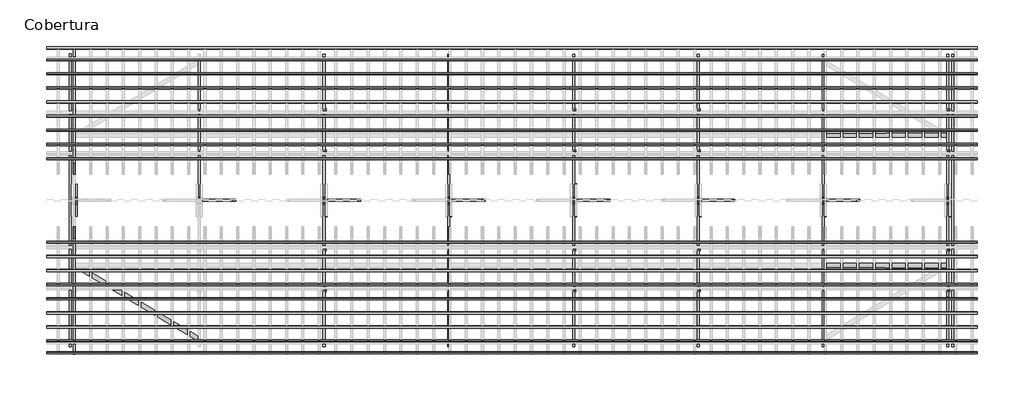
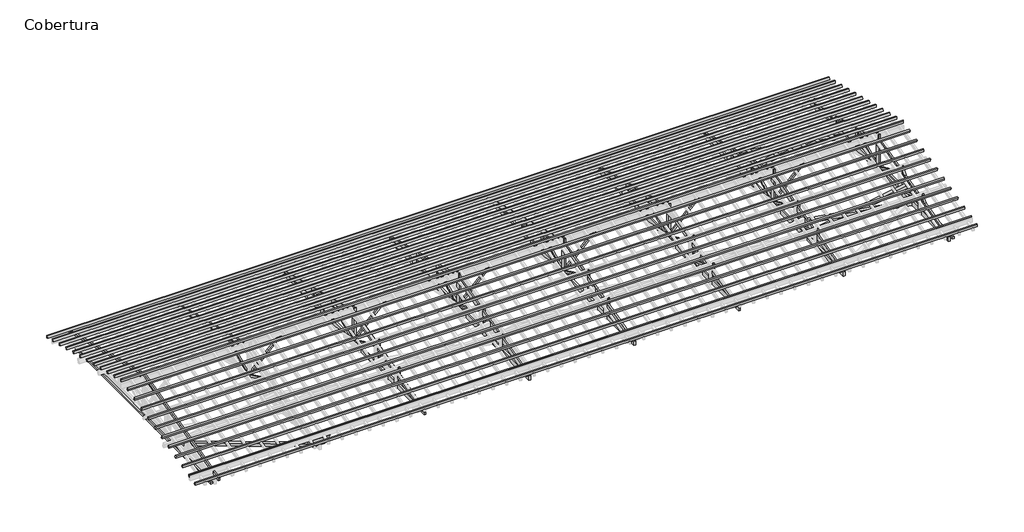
# One storey, part 3 of 3: 78 proxies.
"""IFC4 building model written with IfcOpenShell, lengths in millimetres."""

from ifc_helpers import new_model, si_unit, origin, place, context, project, spatial, transform, mapped, element, save
from components import generic_models_425c2f4d, generic_models_e5b33059, generic_models_df8050df, generic_models_e438c8ae, generic_models_a1f4184e, generic_models_7920858f, generic_models_e209cc3a, generic_models_d8525e1e, generic_models_5950458f, generic_models_fcc09fc7, generic_models_b1f8fa7e, generic_models_85b707a5, generic_models_5e919536, generic_models_2b767ad5, generic_models_c1434fa9, generic_models_f2ca6f04, generic_models_dc6e7441, generic_models_01970b12, generic_models_8a4245bf, generic_models_78a46ebe, generic_models_c166742f, generic_models_f7be567b, generic_models_5ebcc86e, generic_models_40f35aaa, generic_models_66b1627d, generic_models_3ca8df25, generic_models_bc5f4990, generic_models_233710ef, generic_models_63f979b1, generic_models_937c8a6a, generic_models_42f0cbc4, generic_models_2129c80e, generic_models_dbdfc033, generic_models_50ffef5a, generic_models_1e5d9115, generic_models_9d3958d8, generic_models_1bcee4c5, generic_models_7da0c3bd, generic_models_b4ce7ea5, generic_models_02f32a16, generic_models_f44428a0, generic_models_84b53ca5, generic_models_a1e8e8a0, generic_models_064d881c, generic_models_e9d169d2, generic_models_e7d75169, generic_models_1f937349, generic_models_a595523c, generic_models_a589a654, generic_models_8c190c56, generic_models_1d64b13f, generic_models_011da5c6, generic_models_a9474a37, generic_models_062fe46e, generic_models_f43e62c5, generic_models_7443e431, generic_models_3e61c111, generic_models_847009c9, generic_models_421d1b63, generic_models_c462c927, generic_models_ec78b08e, generic_models_f04222a2, generic_models_cd409aa5, generic_models_f3fe7bdc, generic_models_e51e2f78, generic_models_224d4fe7, generic_models_0bdb9a71, generic_models_82d674ec, generic_models_2fe4f615, generic_models_95c86ca1, generic_models_69da9097, generic_models_0b257a73, generic_models_58ecb920, generic_models_97cfe070, generic_models_be4cb03b, generic_models_98053da7, generic_models_e04e582b, generic_models_2b0f7730

model = new_model("IFC4")

# Units and contexts
model_context = context("Model", 3, world=origin())
ifc_project = project(units=[si_unit("LENGTHUNIT", "METRE", prefix="MILLI")], contexts=[model_context])

# Site, building, storey
site = spatial("IfcSite", under=ifc_project)
building = spatial("IfcBuilding", under=site)
storey = spatial("IfcBuildingStorey", under=building, Name="Cobertura", Elevation=3000.0)

# Proxies
placement = place(None, origin())
generic_models_shape = generic_models_425c2f4d(model_context)
element("IfcBuildingElementProxy", 1, Name="Modelos genéricos 35 : Modelos genéricos 12", ObjectType="Modelos genéricos 35 : Modelos genéricos 12", at=placement, inside=storey, context=model_context, shape_type="MappedRepresentation", body=[
    mapped(generic_models_shape, transform((0.0, 0.0, 0.0), x_axis=(1.0, 0.0, 0.0), y_axis=(0.0, 1.0, 0.0), z_axis=(0.0, 0.0, 1.0))),
])
generic_models_2_shape = generic_models_e5b33059(model_context)
element("IfcBuildingElementProxy", 2, Name="Modelos genéricos 39 : Modelos genéricos 16", ObjectType="Modelos genéricos 39 : Modelos genéricos 16", at=placement, inside=storey, context=model_context, shape_type="MappedRepresentation", body=[
    mapped(generic_models_2_shape, transform((0.0, 0.0, 0.0), x_axis=(1.0, 0.0, 0.0), y_axis=(0.0, 1.0, 0.0), z_axis=(0.0, 0.0, 1.0))),
])
generic_models_3_shape = generic_models_df8050df(model_context)
element("IfcBuildingElementProxy", 3, Name="Modelos genéricos 40 : Modelos genéricos 16", ObjectType="Modelos genéricos 40 : Modelos genéricos 16", at=placement, inside=storey, context=model_context, shape_type="MappedRepresentation", body=[
    mapped(generic_models_3_shape, transform((0.0, 0.0, 0.0), x_axis=(1.0, 0.0, 0.0), y_axis=(0.0, 1.0, 0.0), z_axis=(0.0, 0.0, 1.0))),
])
generic_models_4_shape = generic_models_e438c8ae(model_context)
element("IfcBuildingElementProxy", 4, Name="Modelos genéricos 43 : Modelos genéricos 23", ObjectType="Modelos genéricos 43 : Modelos genéricos 23", at=placement, inside=storey, context=model_context, shape_type="MappedRepresentation", body=[
    mapped(generic_models_4_shape, transform((0.0, 0.0, 0.0), x_axis=(1.0, 0.0, 0.0), y_axis=(0.0, 1.0, 0.0), z_axis=(0.0, 0.0, 1.0))),
])
generic_models_5_shape = generic_models_a1f4184e(model_context)
element("IfcBuildingElementProxy", 5, Name="Modelos genéricos 45 : Modelos genéricos 1", ObjectType="Modelos genéricos 45 : Modelos genéricos 1", at=placement, inside=storey, context=model_context, shape_type="MappedRepresentation", body=[
    mapped(generic_models_5_shape, transform((0.0, 0.0, 0.0), x_axis=(1.0, 0.0, 0.0), y_axis=(0.0, 1.0, 0.0), z_axis=(0.0, 0.0, 1.0))),
])
generic_models_6_shape = generic_models_7920858f(model_context)
element("IfcBuildingElementProxy", 6, Name="Modelos genéricos 49 : Modelos genéricos 5", ObjectType="Modelos genéricos 49 : Modelos genéricos 5", at=placement, inside=storey, context=model_context, shape_type="MappedRepresentation", body=[
    mapped(generic_models_6_shape, transform((0.0, 0.0, 0.0), x_axis=(1.0, 0.0, 0.0), y_axis=(0.0, 1.0, 0.0), z_axis=(0.0, 0.0, 1.0))),
])
generic_models_7_shape = generic_models_e209cc3a(model_context)
element("IfcBuildingElementProxy", 7, Name="Modelos genéricos 50 : Modelos genéricos 5", ObjectType="Modelos genéricos 50 : Modelos genéricos 5", at=placement, inside=storey, context=model_context, shape_type="MappedRepresentation", body=[
    mapped(generic_models_7_shape, transform((0.0, 0.0, 0.0), x_axis=(1.0, 0.0, 0.0), y_axis=(0.0, 1.0, 0.0), z_axis=(0.0, 0.0, 1.0))),
])
generic_models_8_shape = generic_models_d8525e1e(model_context)
element("IfcBuildingElementProxy", 8, Name="Modelos genéricos 51 : Modelos genéricos 9", ObjectType="Modelos genéricos 51 : Modelos genéricos 9", at=placement, inside=storey, context=model_context, shape_type="MappedRepresentation", body=[
    mapped(generic_models_8_shape, transform((0.0, 5.0, 0.0), x_axis=(1.0, 0.0, 0.0), y_axis=(0.0, 1.0, 0.0), z_axis=(0.0, 0.0, 1.0))),
])
generic_models_9_shape = generic_models_5950458f(model_context)
element("IfcBuildingElementProxy", 9, Name="Modelos genéricos 52 : Modelos genéricos 11", ObjectType="Modelos genéricos 52 : Modelos genéricos 11", at=placement, inside=storey, context=model_context, shape_type="MappedRepresentation", body=[
    mapped(generic_models_9_shape, transform((0.0, 0.0, 0.0), x_axis=(1.0, 0.0, 0.0), y_axis=(0.0, 1.0, 0.0), z_axis=(0.0, 0.0, 1.0))),
])
generic_models_10_shape = generic_models_fcc09fc7(model_context)
element("IfcBuildingElementProxy", 10, Name="Modelos genéricos 53 : Modelos genéricos 12", ObjectType="Modelos genéricos 53 : Modelos genéricos 12", at=placement, inside=storey, context=model_context, shape_type="MappedRepresentation", body=[
    mapped(generic_models_10_shape, transform((0.0, 0.0, 0.0), x_axis=(1.0, 0.0, 0.0), y_axis=(0.0, 1.0, 0.0), z_axis=(0.0, 0.0, 1.0))),
])
generic_models_11_shape = generic_models_b1f8fa7e(model_context)
element("IfcBuildingElementProxy", 11, Name="Modelos genéricos 54 : Modelos genéricos 12", ObjectType="Modelos genéricos 54 : Modelos genéricos 12", at=placement, inside=storey, context=model_context, shape_type="MappedRepresentation", body=[
    mapped(generic_models_11_shape, transform((0.0, 0.0, 0.0), x_axis=(1.0, 0.0, 0.0), y_axis=(0.0, 1.0, 0.0), z_axis=(0.0, 0.0, 1.0))),
])
generic_models_12_shape = generic_models_85b707a5(model_context)
element("IfcBuildingElementProxy", 12, Name="Modelos genéricos 58 : Modelos genéricos 16", ObjectType="Modelos genéricos 58 : Modelos genéricos 16", at=placement, inside=storey, context=model_context, shape_type="MappedRepresentation", body=[
    mapped(generic_models_12_shape, transform((0.0, 0.0, 0.0), x_axis=(1.0, 0.0, 0.0), y_axis=(0.0, 1.0, 0.0), z_axis=(0.0, 0.0, 1.0))),
])
generic_models_13_shape = generic_models_5e919536(model_context)
element("IfcBuildingElementProxy", 13, Name="Modelos genéricos 59 : Modelos genéricos 16", ObjectType="Modelos genéricos 59 : Modelos genéricos 16", at=placement, inside=storey, context=model_context, shape_type="MappedRepresentation", body=[
    mapped(generic_models_13_shape, transform((0.0, 0.0, 0.0), x_axis=(1.0, 0.0, 0.0), y_axis=(0.0, 1.0, 0.0), z_axis=(0.0, 0.0, 1.0))),
])
generic_models_14_shape = generic_models_2b767ad5(model_context)
element("IfcBuildingElementProxy", 14, Name="Modelos genéricos 62 : Modelos genéricos 23", ObjectType="Modelos genéricos 62 : Modelos genéricos 23", at=placement, inside=storey, context=model_context, shape_type="MappedRepresentation", body=[
    mapped(generic_models_14_shape, transform((0.0, 0.0, 0.0), x_axis=(1.0, 0.0, 0.0), y_axis=(0.0, 1.0, 0.0), z_axis=(0.0, 0.0, 1.0))),
])
generic_models_15_shape = generic_models_c1434fa9(model_context)
element("IfcBuildingElementProxy", 15, Name="Modelos genéricos 64 : Modelos genéricos 1", ObjectType="Modelos genéricos 64 : Modelos genéricos 1", at=placement, inside=storey, context=model_context, shape_type="MappedRepresentation", body=[
    mapped(generic_models_15_shape, transform((0.0, 0.0, 0.0), x_axis=(1.0, 0.0, 0.0), y_axis=(0.0, 1.0, 0.0), z_axis=(0.0, 0.0, 1.0))),
])
generic_models_16_shape = generic_models_f2ca6f04(model_context)
element("IfcBuildingElementProxy", 16, Name="Modelos genéricos 68 : Modelos genéricos 5", ObjectType="Modelos genéricos 68 : Modelos genéricos 5", at=placement, inside=storey, context=model_context, shape_type="MappedRepresentation", body=[
    mapped(generic_models_16_shape, transform((0.0, 0.0, 0.0), x_axis=(1.0, 0.0, 0.0), y_axis=(0.0, 1.0, 0.0), z_axis=(0.0, 0.0, 1.0))),
])
generic_models_17_shape = generic_models_dc6e7441(model_context)
element("IfcBuildingElementProxy", 17, Name="Modelos genéricos 69 : Modelos genéricos 5", ObjectType="Modelos genéricos 69 : Modelos genéricos 5", at=placement, inside=storey, context=model_context, shape_type="MappedRepresentation", body=[
    mapped(generic_models_17_shape, transform((0.0, 0.0, 0.0), x_axis=(1.0, 0.0, 0.0), y_axis=(0.0, 1.0, 0.0), z_axis=(0.0, 0.0, 1.0))),
])
generic_models_18_shape = generic_models_01970b12(model_context)
element("IfcBuildingElementProxy", 18, Name="Modelos genéricos 70 : Modelos genéricos 9", ObjectType="Modelos genéricos 70 : Modelos genéricos 9", at=placement, inside=storey, context=model_context, shape_type="MappedRepresentation", body=[
    mapped(generic_models_18_shape, transform((0.0, 5.0, 0.0), x_axis=(1.0, 0.0, 0.0), y_axis=(0.0, 1.0, 0.0), z_axis=(0.0, 0.0, 1.0))),
])
generic_models_19_shape = generic_models_8a4245bf(model_context)
element("IfcBuildingElementProxy", 19, Name="Modelos genéricos 71 : Modelos genéricos 11", ObjectType="Modelos genéricos 71 : Modelos genéricos 11", at=placement, inside=storey, context=model_context, shape_type="MappedRepresentation", body=[
    mapped(generic_models_19_shape, transform((0.0, 0.0, 0.0), x_axis=(1.0, 0.0, 0.0), y_axis=(0.0, 1.0, 0.0), z_axis=(0.0, 0.0, 1.0))),
])
generic_models_20_shape = generic_models_78a46ebe(model_context)
element("IfcBuildingElementProxy", 20, Name="Modelos genéricos 72 : Modelos genéricos 12", ObjectType="Modelos genéricos 72 : Modelos genéricos 12", at=placement, inside=storey, context=model_context, shape_type="MappedRepresentation", body=[
    mapped(generic_models_20_shape, transform((0.0, 0.0, 0.0), x_axis=(1.0, 0.0, 0.0), y_axis=(0.0, 1.0, 0.0), z_axis=(0.0, 0.0, 1.0))),
])
generic_models_21_shape = generic_models_c166742f(model_context)
element("IfcBuildingElementProxy", 21, Name="Modelos genéricos 73 : Modelos genéricos 12", ObjectType="Modelos genéricos 73 : Modelos genéricos 12", at=placement, inside=storey, context=model_context, shape_type="MappedRepresentation", body=[
    mapped(generic_models_21_shape, transform((0.0, 0.0, 0.0), x_axis=(1.0, 0.0, 0.0), y_axis=(0.0, 1.0, 0.0), z_axis=(0.0, 0.0, 1.0))),
])
generic_models_22_shape = generic_models_f7be567b(model_context)
element("IfcBuildingElementProxy", 22, Name="Modelos genéricos 77 : Modelos genéricos 16", ObjectType="Modelos genéricos 77 : Modelos genéricos 16", at=placement, inside=storey, context=model_context, shape_type="MappedRepresentation", body=[
    mapped(generic_models_22_shape, transform((0.0, 0.0, 0.0), x_axis=(1.0, 0.0, 0.0), y_axis=(0.0, 1.0, 0.0), z_axis=(0.0, 0.0, 1.0))),
])
generic_models_23_shape = generic_models_5ebcc86e(model_context)
element("IfcBuildingElementProxy", 23, Name="Modelos genéricos 78 : Modelos genéricos 16", ObjectType="Modelos genéricos 78 : Modelos genéricos 16", at=placement, inside=storey, context=model_context, shape_type="MappedRepresentation", body=[
    mapped(generic_models_23_shape, transform((0.0, 0.0, 0.0), x_axis=(1.0, 0.0, 0.0), y_axis=(0.0, 1.0, 0.0), z_axis=(0.0, 0.0, 1.0))),
])
generic_models_24_shape = generic_models_40f35aaa(model_context)
element("IfcBuildingElementProxy", 24, Name="Modelos genéricos 81 : Modelos genéricos 23", ObjectType="Modelos genéricos 81 : Modelos genéricos 23", at=placement, inside=storey, context=model_context, shape_type="MappedRepresentation", body=[
    mapped(generic_models_24_shape, transform((0.0, 0.0, 0.0), x_axis=(1.0, 0.0, 0.0), y_axis=(0.0, 1.0, 0.0), z_axis=(0.0, 0.0, 1.0))),
])
generic_models_25_shape = generic_models_66b1627d(model_context)
element("IfcBuildingElementProxy", 25, Name="Modelos genéricos 83 : Modelos genéricos 1", ObjectType="Modelos genéricos 83 : Modelos genéricos 1", at=placement, inside=storey, context=model_context, shape_type="MappedRepresentation", body=[
    mapped(generic_models_25_shape, transform((0.0, 0.0, 0.0), x_axis=(1.0, 0.0, 0.0), y_axis=(0.0, 1.0, 0.0), z_axis=(0.0, 0.0, 1.0))),
])
generic_models_26_shape = generic_models_3ca8df25(model_context)
element("IfcBuildingElementProxy", 26, Name="Modelos genéricos 87 : Modelos genéricos 5", ObjectType="Modelos genéricos 87 : Modelos genéricos 5", at=placement, inside=storey, context=model_context, shape_type="MappedRepresentation", body=[
    mapped(generic_models_26_shape, transform((0.0, 0.0, 0.0), x_axis=(1.0, 0.0, 0.0), y_axis=(0.0, 1.0, 0.0), z_axis=(0.0, 0.0, 1.0))),
])
generic_models_27_shape = generic_models_bc5f4990(model_context)
element("IfcBuildingElementProxy", 27, Name="Modelos genéricos 88 : Modelos genéricos 5", ObjectType="Modelos genéricos 88 : Modelos genéricos 5", at=placement, inside=storey, context=model_context, shape_type="MappedRepresentation", body=[
    mapped(generic_models_27_shape, transform((0.0, 0.0, 0.0), x_axis=(1.0, 0.0, 0.0), y_axis=(0.0, 1.0, 0.0), z_axis=(0.0, 0.0, 1.0))),
])
generic_models_28_shape = generic_models_233710ef(model_context)
element("IfcBuildingElementProxy", 28, Name="Modelos genéricos 89 : Modelos genéricos 9", ObjectType="Modelos genéricos 89 : Modelos genéricos 9", at=placement, inside=storey, context=model_context, shape_type="MappedRepresentation", body=[
    mapped(generic_models_28_shape, transform((0.0, 5.0, 0.0), x_axis=(1.0, 0.0, 0.0), y_axis=(0.0, 1.0, 0.0), z_axis=(0.0, 0.0, 1.0))),
])
generic_models_29_shape = generic_models_63f979b1(model_context)
element("IfcBuildingElementProxy", 29, Name="Modelos genéricos 90 : Modelos genéricos 11", ObjectType="Modelos genéricos 90 : Modelos genéricos 11", at=placement, inside=storey, context=model_context, shape_type="MappedRepresentation", body=[
    mapped(generic_models_29_shape, transform((0.0, 0.0, 0.0), x_axis=(1.0, 0.0, 0.0), y_axis=(0.0, 1.0, 0.0), z_axis=(0.0, 0.0, 1.0))),
])
generic_models_30_shape = generic_models_937c8a6a(model_context)
element("IfcBuildingElementProxy", 30, Name="Modelos genéricos 91 : Modelos genéricos 12", ObjectType="Modelos genéricos 91 : Modelos genéricos 12", at=placement, inside=storey, context=model_context, shape_type="MappedRepresentation", body=[
    mapped(generic_models_30_shape, transform((0.0, 0.0, 0.0), x_axis=(1.0, 0.0, 0.0), y_axis=(0.0, 1.0, 0.0), z_axis=(0.0, 0.0, 1.0))),
])
generic_models_31_shape = generic_models_42f0cbc4(model_context)
element("IfcBuildingElementProxy", 31, Name="Modelos genéricos 92 : Modelos genéricos 12", ObjectType="Modelos genéricos 92 : Modelos genéricos 12", at=placement, inside=storey, context=model_context, shape_type="MappedRepresentation", body=[
    mapped(generic_models_31_shape, transform((0.0, 0.0, 0.0), x_axis=(1.0, 0.0, 0.0), y_axis=(0.0, 1.0, 0.0), z_axis=(0.0, 0.0, 1.0))),
])
generic_models_32_shape = generic_models_2129c80e(model_context)
element("IfcBuildingElementProxy", 32, Name="Modelos genéricos 96 : Modelos genéricos 16", ObjectType="Modelos genéricos 96 : Modelos genéricos 16", at=placement, inside=storey, context=model_context, shape_type="MappedRepresentation", body=[
    mapped(generic_models_32_shape, transform((0.0, 0.0, 0.0), x_axis=(1.0, 0.0, 0.0), y_axis=(0.0, 1.0, 0.0), z_axis=(0.0, 0.0, 1.0))),
])
generic_models_33_shape = generic_models_dbdfc033(model_context)
element("IfcBuildingElementProxy", 33, Name="Modelos genéricos 97 : Modelos genéricos 16", ObjectType="Modelos genéricos 97 : Modelos genéricos 16", at=placement, inside=storey, context=model_context, shape_type="MappedRepresentation", body=[
    mapped(generic_models_33_shape, transform((0.0, 0.0, 0.0), x_axis=(1.0, 0.0, 0.0), y_axis=(0.0, 1.0, 0.0), z_axis=(0.0, 0.0, 1.0))),
])
generic_models_34_shape = generic_models_50ffef5a(model_context)
element("IfcBuildingElementProxy", 34, Name="Modelos genéricos 100 : Modelos genéricos 23", ObjectType="Modelos genéricos 100 : Modelos genéricos 23", at=placement, inside=storey, context=model_context, shape_type="MappedRepresentation", body=[
    mapped(generic_models_34_shape, transform((0.0, 0.0, 0.0), x_axis=(1.0, 0.0, 0.0), y_axis=(0.0, 1.0, 0.0), z_axis=(0.0, 0.0, 1.0))),
])
generic_models_35_shape = generic_models_1e5d9115(model_context)
element("IfcBuildingElementProxy", 35, Name="Modelos genéricos 102 : Modelos genéricos 1", ObjectType="Modelos genéricos 102 : Modelos genéricos 1", at=placement, inside=storey, context=model_context, shape_type="MappedRepresentation", body=[
    mapped(generic_models_35_shape, transform((0.0, 0.0, 0.0), x_axis=(1.0, 0.0, 0.0), y_axis=(0.0, 1.0, 0.0), z_axis=(0.0, 0.0, 1.0))),
])
generic_models_36_shape = generic_models_9d3958d8(model_context)
element("IfcBuildingElementProxy", 36, Name="Modelos genéricos 106 : Modelos genéricos 5", ObjectType="Modelos genéricos 106 : Modelos genéricos 5", at=placement, inside=storey, context=model_context, shape_type="MappedRepresentation", body=[
    mapped(generic_models_36_shape, transform((0.0, 0.0, 0.0), x_axis=(1.0, 0.0, 0.0), y_axis=(0.0, 1.0, 0.0), z_axis=(0.0, 0.0, 1.0))),
])
generic_models_37_shape = generic_models_1bcee4c5(model_context)
element("IfcBuildingElementProxy", 37, Name="Modelos genéricos 107 : Modelos genéricos 5", ObjectType="Modelos genéricos 107 : Modelos genéricos 5", at=placement, inside=storey, context=model_context, shape_type="MappedRepresentation", body=[
    mapped(generic_models_37_shape, transform((0.0, 0.0, 0.0), x_axis=(1.0, 0.0, 0.0), y_axis=(0.0, 1.0, 0.0), z_axis=(0.0, 0.0, 1.0))),
])
generic_models_38_shape = generic_models_7da0c3bd(model_context)
element("IfcBuildingElementProxy", 38, Name="Modelos genéricos 108 : Modelos genéricos 9", ObjectType="Modelos genéricos 108 : Modelos genéricos 9", at=placement, inside=storey, context=model_context, shape_type="MappedRepresentation", body=[
    mapped(generic_models_38_shape, transform((0.0, 5.0, 0.0), x_axis=(1.0, 0.0, 0.0), y_axis=(0.0, 1.0, 0.0), z_axis=(0.0, 0.0, 1.0))),
])
generic_models_39_shape = generic_models_b4ce7ea5(model_context)
element("IfcBuildingElementProxy", 39, Name="Modelos genéricos 109 : Modelos genéricos 11", ObjectType="Modelos genéricos 109 : Modelos genéricos 11", at=placement, inside=storey, context=model_context, shape_type="MappedRepresentation", body=[
    mapped(generic_models_39_shape, transform((0.0, 0.0, 0.0), x_axis=(1.0, 0.0, 0.0), y_axis=(0.0, 1.0, 0.0), z_axis=(0.0, 0.0, 1.0))),
])
generic_models_40_shape = generic_models_02f32a16(model_context)
element("IfcBuildingElementProxy", 40, Name="Modelos genéricos 110 : Modelos genéricos 12", ObjectType="Modelos genéricos 110 : Modelos genéricos 12", at=placement, inside=storey, context=model_context, shape_type="MappedRepresentation", body=[
    mapped(generic_models_40_shape, transform((0.0, 0.0, 0.0), x_axis=(1.0, 0.0, 0.0), y_axis=(0.0, 1.0, 0.0), z_axis=(0.0, 0.0, 1.0))),
])
generic_models_41_shape = generic_models_f44428a0(model_context)
element("IfcBuildingElementProxy", 41, Name="Modelos genéricos 111 : Modelos genéricos 12", ObjectType="Modelos genéricos 111 : Modelos genéricos 12", at=placement, inside=storey, context=model_context, shape_type="MappedRepresentation", body=[
    mapped(generic_models_41_shape, transform((0.0, 0.0, 0.0), x_axis=(1.0, 0.0, 0.0), y_axis=(0.0, 1.0, 0.0), z_axis=(0.0, 0.0, 1.0))),
])
generic_models_42_shape = generic_models_84b53ca5(model_context)
element("IfcBuildingElementProxy", 42, Name="Modelos genéricos 113 : Modelos genéricos 14", ObjectType="Modelos genéricos 113 : Modelos genéricos 14", at=placement, inside=storey, context=model_context, shape_type="MappedRepresentation", body=[
    mapped(generic_models_42_shape, transform((0.0, 0.0, 0.0), x_axis=(1.0, 0.0, 0.0), y_axis=(0.0, 1.0, 0.0), z_axis=(0.0, 0.0, 1.0))),
])
generic_models_43_shape = generic_models_a1e8e8a0(model_context)
element("IfcBuildingElementProxy", 43, Name="Modelos genéricos 115 : Modelos genéricos 16", ObjectType="Modelos genéricos 115 : Modelos genéricos 16", at=placement, inside=storey, context=model_context, shape_type="MappedRepresentation", body=[
    mapped(generic_models_43_shape, transform((0.0, 0.0, 0.0), x_axis=(1.0, 0.0, 0.0), y_axis=(0.0, 1.0, 0.0), z_axis=(0.0, 0.0, 1.0))),
])
generic_models_44_shape = generic_models_064d881c(model_context)
element("IfcBuildingElementProxy", 44, Name="Modelos genéricos 116 : Modelos genéricos 16", ObjectType="Modelos genéricos 116 : Modelos genéricos 16", at=placement, inside=storey, context=model_context, shape_type="MappedRepresentation", body=[
    mapped(generic_models_44_shape, transform((0.0, 0.0, 0.0), x_axis=(1.0, 0.0, 0.0), y_axis=(0.0, 1.0, 0.0), z_axis=(0.0, 0.0, 1.0))),
])
generic_models_45_shape = generic_models_e9d169d2(model_context)
element("IfcBuildingElementProxy", 45, Name="Modelos genéricos 119 : Modelos genéricos 23", ObjectType="Modelos genéricos 119 : Modelos genéricos 23", at=placement, inside=storey, context=model_context, shape_type="MappedRepresentation", body=[
    mapped(generic_models_45_shape, transform((0.0, 0.0, 0.0), x_axis=(1.0, 0.0, 0.0), y_axis=(0.0, 1.0, 0.0), z_axis=(0.0, 0.0, 1.0))),
])
generic_models_46_shape = generic_models_e7d75169(model_context)
element("IfcBuildingElementProxy", 46, Name="Modelos genéricos 121 : Modelos genéricos 1", ObjectType="Modelos genéricos 121 : Modelos genéricos 1", at=placement, inside=storey, context=model_context, shape_type="MappedRepresentation", body=[
    mapped(generic_models_46_shape, transform((0.0, 0.0, 0.0), x_axis=(1.0, 0.0, 0.0), y_axis=(0.0, 1.0, 0.0), z_axis=(0.0, 0.0, 1.0))),
])
generic_models_47_shape = generic_models_1f937349(model_context)
element("IfcBuildingElementProxy", 47, Name="Modelos genéricos 125 : Modelos genéricos 5", ObjectType="Modelos genéricos 125 : Modelos genéricos 5", at=placement, inside=storey, context=model_context, shape_type="MappedRepresentation", body=[
    mapped(generic_models_47_shape, transform((0.0, 0.0, 0.0), x_axis=(1.0, 0.0, 0.0), y_axis=(0.0, 1.0, 0.0), z_axis=(0.0, 0.0, 1.0))),
])
generic_models_48_shape = generic_models_a595523c(model_context)
element("IfcBuildingElementProxy", 48, Name="Modelos genéricos 126 : Modelos genéricos 5", ObjectType="Modelos genéricos 126 : Modelos genéricos 5", at=placement, inside=storey, context=model_context, shape_type="MappedRepresentation", body=[
    mapped(generic_models_48_shape, transform((0.0, 0.0, 0.0), x_axis=(1.0, 0.0, 0.0), y_axis=(0.0, 1.0, 0.0), z_axis=(0.0, 0.0, 1.0))),
])
generic_models_49_shape = generic_models_a589a654(model_context)
element("IfcBuildingElementProxy", 49, Name="Modelos genéricos 127 : Modelos genéricos 9", ObjectType="Modelos genéricos 127 : Modelos genéricos 9", at=placement, inside=storey, context=model_context, shape_type="MappedRepresentation", body=[
    mapped(generic_models_49_shape, transform((0.0, 5.0, 0.0), x_axis=(1.0, 0.0, 0.0), y_axis=(0.0, 1.0, 0.0), z_axis=(0.0, 0.0, 1.0))),
])
generic_models_50_shape = generic_models_8c190c56(model_context)
element("IfcBuildingElementProxy", 50, Name="Modelos genéricos 128 : Modelos genéricos 11", ObjectType="Modelos genéricos 128 : Modelos genéricos 11", at=placement, inside=storey, context=model_context, shape_type="MappedRepresentation", body=[
    mapped(generic_models_50_shape, transform((0.0, 0.0, 0.0), x_axis=(1.0, 0.0, 0.0), y_axis=(0.0, 1.0, 0.0), z_axis=(0.0, 0.0, 1.0))),
])
generic_models_51_shape = generic_models_1d64b13f(model_context)
element("IfcBuildingElementProxy", 51, Name="Modelos genéricos 129 : Modelos genéricos 12", ObjectType="Modelos genéricos 129 : Modelos genéricos 12", at=placement, inside=storey, context=model_context, shape_type="MappedRepresentation", body=[
    mapped(generic_models_51_shape, transform((0.0, 0.0, 0.0), x_axis=(1.0, 0.0, 0.0), y_axis=(0.0, 1.0, 0.0), z_axis=(0.0, 0.0, 1.0))),
])
generic_models_52_shape = generic_models_011da5c6(model_context)
element("IfcBuildingElementProxy", 52, Name="Modelos genéricos 130 : Modelos genéricos 12", ObjectType="Modelos genéricos 130 : Modelos genéricos 12", at=placement, inside=storey, context=model_context, shape_type="MappedRepresentation", body=[
    mapped(generic_models_52_shape, transform((0.0, 0.0, 0.0), x_axis=(1.0, 0.0, 0.0), y_axis=(0.0, 1.0, 0.0), z_axis=(0.0, 0.0, 1.0))),
])
generic_models_53_shape = generic_models_a9474a37(model_context)
element("IfcBuildingElementProxy", 53, Name="Modelos genéricos 132 : Modelos genéricos 14", ObjectType="Modelos genéricos 132 : Modelos genéricos 14", at=placement, inside=storey, context=model_context, shape_type="MappedRepresentation", body=[
    mapped(generic_models_53_shape, transform((0.0, 0.0, 0.0), x_axis=(1.0, 0.0, 0.0), y_axis=(0.0, 1.0, 0.0), z_axis=(0.0, 0.0, 1.0))),
])
generic_models_54_shape = generic_models_062fe46e(model_context)
element("IfcBuildingElementProxy", 54, Name="Modelos genéricos 134 : Modelos genéricos 16", ObjectType="Modelos genéricos 134 : Modelos genéricos 16", at=placement, inside=storey, context=model_context, shape_type="MappedRepresentation", body=[
    mapped(generic_models_54_shape, transform((0.0, 0.0, 0.0), x_axis=(1.0, 0.0, 0.0), y_axis=(0.0, 1.0, 0.0), z_axis=(0.0, 0.0, 1.0))),
])
generic_models_55_shape = generic_models_f43e62c5(model_context)
element("IfcBuildingElementProxy", 55, Name="Modelos genéricos 135 : Modelos genéricos 16", ObjectType="Modelos genéricos 135 : Modelos genéricos 16", at=placement, inside=storey, context=model_context, shape_type="MappedRepresentation", body=[
    mapped(generic_models_55_shape, transform((0.0, 0.0, 0.0), x_axis=(1.0, 0.0, 0.0), y_axis=(0.0, 1.0, 0.0), z_axis=(0.0, 0.0, 1.0))),
])
generic_models_56_shape = generic_models_7443e431(model_context)
element("IfcBuildingElementProxy", 56, Name="Modelos genéricos 138 : Modelos genéricos 23", ObjectType="Modelos genéricos 138 : Modelos genéricos 23", at=placement, inside=storey, context=model_context, shape_type="MappedRepresentation", body=[
    mapped(generic_models_56_shape, transform((0.0, 0.0, 0.0), x_axis=(1.0, 0.0, 0.0), y_axis=(0.0, 1.0, 0.0), z_axis=(0.0, 0.0, 1.0))),
])
generic_models_57_shape = generic_models_3e61c111(model_context)
element("IfcBuildingElementProxy", 57, Name="Modelos genéricos 141 : Modelos genéricos 1", ObjectType="Modelos genéricos 141 : Modelos genéricos 1", at=placement, inside=storey, context=model_context, shape_type="MappedRepresentation", body=[
    mapped(generic_models_57_shape, transform((0.0, 0.0, 0.0), x_axis=(1.0, 0.0, 0.0), y_axis=(0.0, 1.0, 0.0), z_axis=(0.0, 0.0, 1.0))),
])
generic_models_58_shape = generic_models_847009c9(model_context)
element("IfcBuildingElementProxy", 58, Name="Modelos genéricos 145 : Modelos genéricos 5", ObjectType="Modelos genéricos 145 : Modelos genéricos 5", at=placement, inside=storey, context=model_context, shape_type="MappedRepresentation", body=[
    mapped(generic_models_58_shape, transform((0.0, 0.0, 0.0), x_axis=(1.0, 0.0, 0.0), y_axis=(0.0, 1.0, 0.0), z_axis=(0.0, 0.0, 1.0))),
])
generic_models_59_shape = generic_models_421d1b63(model_context)
element("IfcBuildingElementProxy", 59, Name="Modelos genéricos 146 : Modelos genéricos 5", ObjectType="Modelos genéricos 146 : Modelos genéricos 5", at=placement, inside=storey, context=model_context, shape_type="MappedRepresentation", body=[
    mapped(generic_models_59_shape, transform((0.0, 0.0, 0.0), x_axis=(1.0, 0.0, 0.0), y_axis=(0.0, 1.0, 0.0), z_axis=(0.0, 0.0, 1.0))),
])
generic_models_60_shape = generic_models_c462c927(model_context)
element("IfcBuildingElementProxy", 60, Name="Modelos genéricos 147 : Modelos genéricos 9", ObjectType="Modelos genéricos 147 : Modelos genéricos 9", at=placement, inside=storey, context=model_context, shape_type="MappedRepresentation", body=[
    mapped(generic_models_60_shape, transform((0.0, 5.0, 0.0), x_axis=(1.0, 0.0, 0.0), y_axis=(0.0, 1.0, 0.0), z_axis=(0.0, 0.0, 1.0))),
])
generic_models_61_shape = generic_models_ec78b08e(model_context)
element("IfcBuildingElementProxy", 61, Name="Modelos genéricos 148 : Modelos genéricos 11", ObjectType="Modelos genéricos 148 : Modelos genéricos 11", at=placement, inside=storey, context=model_context, shape_type="MappedRepresentation", body=[
    mapped(generic_models_61_shape, transform((0.0, 0.0, 0.0), x_axis=(1.0, 0.0, 0.0), y_axis=(0.0, 1.0, 0.0), z_axis=(0.0, 0.0, 1.0))),
])
generic_models_62_shape = generic_models_f04222a2(model_context)
element("IfcBuildingElementProxy", 62, Name="Modelos genéricos 149 : Modelos genéricos 12", ObjectType="Modelos genéricos 149 : Modelos genéricos 12", at=placement, inside=storey, context=model_context, shape_type="MappedRepresentation", body=[
    mapped(generic_models_62_shape, transform((0.0, 0.0, 0.0), x_axis=(1.0, 0.0, 0.0), y_axis=(0.0, 1.0, 0.0), z_axis=(0.0, 0.0, 1.0))),
])
generic_models_63_shape = generic_models_cd409aa5(model_context)
element("IfcBuildingElementProxy", 63, Name="Modelos genéricos 150 : Modelos genéricos 12", ObjectType="Modelos genéricos 150 : Modelos genéricos 12", at=placement, inside=storey, context=model_context, shape_type="MappedRepresentation", body=[
    mapped(generic_models_63_shape, transform((0.0, 0.0, 0.0), x_axis=(1.0, 0.0, 0.0), y_axis=(0.0, 1.0, 0.0), z_axis=(0.0, 0.0, 1.0))),
])
generic_models_64_shape = generic_models_f3fe7bdc(model_context)
element("IfcBuildingElementProxy", 64, Name="Modelos genéricos 152 : Modelos genéricos 14", ObjectType="Modelos genéricos 152 : Modelos genéricos 14", at=placement, inside=storey, context=model_context, shape_type="MappedRepresentation", body=[
    mapped(generic_models_64_shape, transform((0.0, 0.0, 0.0), x_axis=(1.0, 0.0, 0.0), y_axis=(0.0, 1.0, 0.0), z_axis=(0.0, 0.0, 1.0))),
])
generic_models_65_shape = generic_models_e51e2f78(model_context)
element("IfcBuildingElementProxy", 65, Name="Modelos genéricos 154 : Modelos genéricos 16", ObjectType="Modelos genéricos 154 : Modelos genéricos 16", at=placement, inside=storey, context=model_context, shape_type="MappedRepresentation", body=[
    mapped(generic_models_65_shape, transform((0.0, 0.0, 0.0), x_axis=(1.0, 0.0, 0.0), y_axis=(0.0, 1.0, 0.0), z_axis=(0.0, 0.0, 1.0))),
])
generic_models_66_shape = generic_models_224d4fe7(model_context)
element("IfcBuildingElementProxy", 66, Name="Modelos genéricos 155 : Modelos genéricos 16", ObjectType="Modelos genéricos 155 : Modelos genéricos 16", at=placement, inside=storey, context=model_context, shape_type="MappedRepresentation", body=[
    mapped(generic_models_66_shape, transform((0.0, 0.0, 0.0), x_axis=(1.0, 0.0, 0.0), y_axis=(0.0, 1.0, 0.0), z_axis=(0.0, 0.0, 1.0))),
])
generic_models_67_shape = generic_models_0bdb9a71(model_context)
element("IfcBuildingElementProxy", 67, Name="Modelos genéricos 86 : Modelos genéricos 3", ObjectType="Modelos genéricos 86 : Modelos genéricos 3", at=placement, inside=storey, context=model_context, shape_type="MappedRepresentation", body=[
    mapped(generic_models_67_shape, transform((0.0, 0.0, 0.0), x_axis=(1.0, 0.0, 0.0), y_axis=(0.0, 1.0, 0.0), z_axis=(0.0, 0.0, 1.0))),
])
generic_models_68_shape = generic_models_82d674ec(model_context)
element("IfcBuildingElementProxy", 68, Name="Modelos genéricos 144 : Modelos genéricos 144", ObjectType="Modelos genéricos 144 : Modelos genéricos 144", at=placement, inside=storey, context=model_context, shape_type="MappedRepresentation", body=[
    mapped(generic_models_68_shape, transform((0.0, 0.0, 0.0), x_axis=(1.0, 0.0, 0.0), y_axis=(0.0, 1.0, 0.0), z_axis=(0.0, 0.0, 1.0))),
])
generic_models_69_shape = generic_models_2fe4f615(model_context)
element("IfcBuildingElementProxy", 69, Name="Modelos genéricos 175 : Modelos genéricos 174", ObjectType="Modelos genéricos 175 : Modelos genéricos 174", at=placement, inside=storey, context=model_context, shape_type="MappedRepresentation", body=[
    mapped(generic_models_69_shape, transform((0.0, 0.0, 0.0), x_axis=(1.0, 0.0, 0.0), y_axis=(0.0, 1.0, 0.0), z_axis=(0.0, 0.0, 1.0))),
])
generic_models_70_shape = generic_models_95c86ca1(model_context)
element("IfcBuildingElementProxy", 70, Name="Modelos genéricos 230 : Modelos genéricos 230", ObjectType="Modelos genéricos 230 : Modelos genéricos 230", at=placement, inside=storey, context=model_context, shape_type="MappedRepresentation", body=[
    mapped(generic_models_70_shape, transform((0.0, 0.0, 0.0), x_axis=(1.0, 0.0, 0.0), y_axis=(0.0, 1.0, 0.0), z_axis=(0.0, 0.0, 1.0))),
])
generic_models_71_shape = generic_models_69da9097(model_context)
element("IfcBuildingElementProxy", 71, Name="Modelos genéricos 231 : Modelos genéricos 231", ObjectType="Modelos genéricos 231 : Modelos genéricos 231", at=placement, inside=storey, context=model_context, shape_type="MappedRepresentation", body=[
    mapped(generic_models_71_shape, transform((0.0, 0.0, 0.0), x_axis=(1.0, 0.0, 0.0), y_axis=(0.0, 1.0, 0.0), z_axis=(0.0, 0.0, 1.0))),
])
generic_models_72_shape = generic_models_0b257a73(model_context)
element("IfcBuildingElementProxy", 72, Name="Modelos genéricos 232 : Modelos genéricos 231", ObjectType="Modelos genéricos 232 : Modelos genéricos 231", at=placement, inside=storey, context=model_context, shape_type="MappedRepresentation", body=[
    mapped(generic_models_72_shape, transform((0.0, 0.0, 0.0), x_axis=(1.0, 0.0, 0.0), y_axis=(0.0, 1.0, 0.0), z_axis=(0.0, 0.0, 1.0))),
])
generic_models_73_shape = generic_models_58ecb920(model_context)
element("IfcBuildingElementProxy", 73, Name="Modelos genéricos 233 : Modelos genéricos 231", ObjectType="Modelos genéricos 233 : Modelos genéricos 231", at=placement, inside=storey, context=model_context, shape_type="MappedRepresentation", body=[
    mapped(generic_models_73_shape, transform((0.0, 0.0, 0.0), x_axis=(1.0, 0.0, 0.0), y_axis=(0.0, 1.0, 0.0), z_axis=(0.0, 0.0, 1.0))),
])
generic_models_74_shape = generic_models_97cfe070(model_context)
element("IfcBuildingElementProxy", 74, Name="Modelos genéricos 234 : Modelos genéricos 231", ObjectType="Modelos genéricos 234 : Modelos genéricos 231", at=placement, inside=storey, context=model_context, shape_type="MappedRepresentation", body=[
    mapped(generic_models_74_shape, transform((0.0, 0.0, 0.0), x_axis=(1.0, 0.0, 0.0), y_axis=(0.0, 1.0, 0.0), z_axis=(0.0, 0.0, 1.0))),
])
generic_models_75_shape = generic_models_be4cb03b(model_context)
element("IfcBuildingElementProxy", 75, Name="Modelos genéricos 260 : Modelos genéricos 259", ObjectType="Modelos genéricos 260 : Modelos genéricos 259", at=placement, inside=storey, context=model_context, shape_type="MappedRepresentation", body=[
    mapped(generic_models_75_shape, transform((0.0, 15.0, 0.0), x_axis=(1.0, 0.0, 0.0), y_axis=(0.0, 1.0, 0.0), z_axis=(0.0, 0.0, 1.0))),
])
generic_models_76_shape = generic_models_98053da7(model_context)
element("IfcBuildingElementProxy", 76, Name="Modelos genéricos 270 : Modelos genéricos 263", ObjectType="Modelos genéricos 270 : Modelos genéricos 263", at=placement, inside=storey, context=model_context, shape_type="MappedRepresentation", body=[
    mapped(generic_models_76_shape, transform((0.0, 0.0, 0.0), x_axis=(1.0, 0.0, 0.0), y_axis=(0.0, 1.0, 0.0), z_axis=(0.0, 0.0, 1.0))),
])
generic_models_77_shape = generic_models_e04e582b(model_context)
element("IfcBuildingElementProxy", 77, Name="Modelos genéricos 224 : Modelos genéricos 224", ObjectType="Modelos genéricos 224 : Modelos genéricos 224", at=placement, inside=storey, context=model_context, shape_type="MappedRepresentation", body=[
    mapped(generic_models_77_shape, transform((0.0, 0.0, 0.0), x_axis=(1.0, 0.0, 0.0), y_axis=(0.0, 1.0, 0.0), z_axis=(0.0, 0.0, 1.0))),
])
generic_models_78_shape = generic_models_2b0f7730(model_context)
element("IfcBuildingElementProxy", 78, Name="Modelos genéricos 227 : Modelos genéricos 224", ObjectType="Modelos genéricos 227 : Modelos genéricos 224", at=placement, inside=storey, context=model_context, shape_type="MappedRepresentation", body=[
    mapped(generic_models_78_shape, transform((0.0, 0.0, 0.0), x_axis=(1.0, 0.0, 0.0), y_axis=(0.0, 1.0, 0.0), z_axis=(0.0, 0.0, 1.0))),
])

save(model, "model.ifc")
